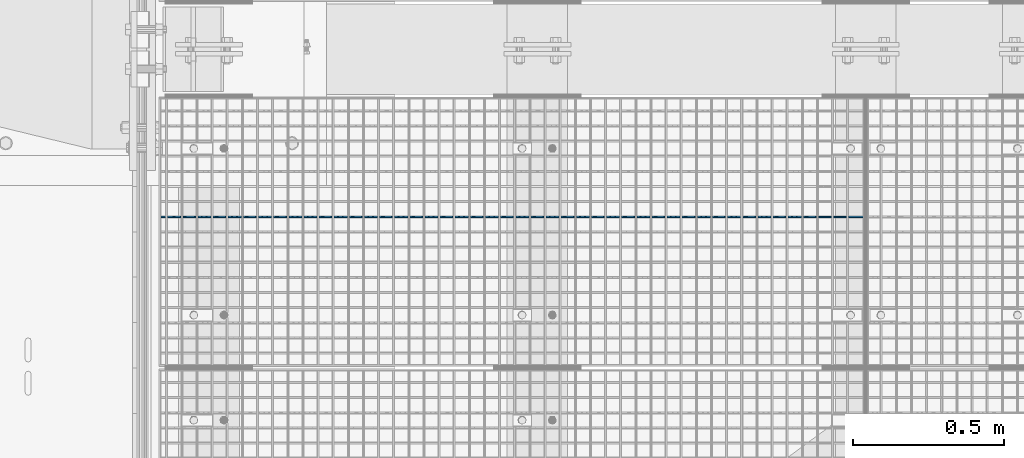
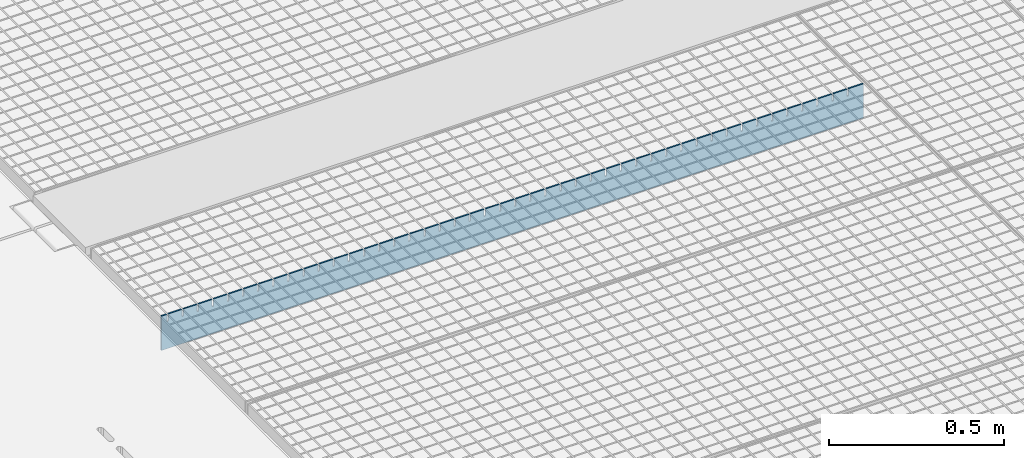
# One storey, part 145 of 1530: 1 beam.
"""IFC2X3 building model written with IfcOpenShell, lengths in millimetres."""

from ifc_helpers import new_model, si_unit, frame, origin_with_axes, place, context, subcontext, project, spatial, faceted_brep, material, type_object, element, save


model = new_model("IFC2X3")

# Units and contexts
model_context = context("Model", 3, precision=1e-05, world=origin_with_axes())
body_context = subcontext(model_context, "Body", "Model", "MODEL_VIEW")
ifc_project = project(units=[si_unit("LENGTHUNIT", "METRE", prefix="MILLI"), si_unit("AREAUNIT", "SQUARE_METRE"), si_unit("VOLUMEUNIT", "CUBIC_METRE"), si_unit("MASSUNIT", "GRAM", prefix="KILO"), si_unit("TIMEUNIT", "SECOND"), si_unit("PLANEANGLEUNIT", "RADIAN"), si_unit("SOLIDANGLEUNIT", "STERADIAN"), si_unit("THERMODYNAMICTEMPERATUREUNIT", "DEGREE_CELSIUS"), si_unit("LUMINOUSINTENSITYUNIT", "LUMEN")], contexts=[model_context])

# Site, building, storey
site_placement = place(None, origin_with_axes())
site = spatial("IfcSite", under=ifc_project, at=site_placement, Name="Brattvåg", CompositionType="ELEMENT")
building_placement = place(site_placement, origin_with_axes())
building = spatial("IfcBuilding", under=site, at=building_placement, Name="Undefined", CompositionType="ELEMENT")
storey_placement = place(building_placement, origin_with_axes())
storey = spatial("IfcBuildingStorey", under=building, at=storey_placement, Name="Undefined", CompositionType="ELEMENT", Elevation=0.0)

# Beam
ifc_material = material(Name="STEEL/S355J2")
beam_type = type_object("IfcBeamType", Name="120*5", PredefinedType="NOTDEFINED")
beam_placement = place(storey_placement, frame((2347.01317977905, 2446.99563598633, -59.9998626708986), z_axis=(0.0, 0.0, 1.0), x_axis=(-1.0, 1.99999855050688e-09, 0.0)))
element("IfcBeam", 1, at=beam_placement, inside=storey, type_object=beam_type, material=ifc_material, Name="GRATING", context=body_context, shape_type="Brep", body=[
    faceted_brep([(99.4490367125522, -2.50000000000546, 60.0000722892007), (99.4490367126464, -2.50000000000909, 35.0001373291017), (99.4490367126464, 2.50022888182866, 35.0001373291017), (99.4490367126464, 2.5, 60.0), (104.449036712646, -2.50000000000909, 35.0001373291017), (104.449036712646, 2.50022888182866, 35.0001373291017), (104.449036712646, -2.50000000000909, 60.0001373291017), (104.449036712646, 2.5, 60.0), (54.5084370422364, -2.50000000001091, 60.0001373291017), (54.5084370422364, 2.5, 60.0), (54.5084370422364, 2.49999999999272, 35.0001373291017), (54.5084370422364, -2.50000000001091, 35.0001373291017), (49.5084370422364, 2.49999999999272, 35.0001373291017), (49.5084370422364, -2.50000000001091, 35.0001373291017), (49.5084370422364, -2.5, 60.0), (49.5084370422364, 2.5, 60.0), (0.0, 2.5, 60.0), (0.0, -2.5, 60.0), (0.0, -2.5, -60.0), (0.0, 2.5, -60.0), (2319.99865722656, 2.5, -60.0), (2319.99865722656, -2.5, -60.0), (2319.99865722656, -2.5, 60.0), (2319.99865722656, 2.5, 60.0), (2302.24871932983, 2.5, 60.0), (2302.24871932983, -2.50000000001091, 60.0001373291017), (2302.24871932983, 2.49999999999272, 35.0001373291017), (2302.24871932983, -2.50000000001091, 35.0001373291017), (2297.24871932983, 2.49999999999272, 35.0001373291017), (2297.24871932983, -2.50000000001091, 35.0001373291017), (2297.24871932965, -2.50000000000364, 60.0000461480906), (2297.24871932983, 2.5, 60.0), (2252.29859649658, 2.5, 60.0), (2252.29859649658, -2.50000000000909, 60.0001373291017), (2252.29859649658, 2.50022888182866, 35.0001373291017), (2252.29859649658, -2.50000000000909, 35.0001373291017), (2247.29859649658, 2.50022888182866, 35.0001373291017), (2247.29859649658, -2.50000000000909, 35.0001373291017), (2247.29859649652, -2.50000000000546, 60.0000848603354), (2247.29859649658, 2.5, 60.0), (2202.34847366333, 2.5, 60.0), (2202.34847366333, -2.50000000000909, 60.0001373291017), (2202.34847366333, 2.50022888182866, 35.0001373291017), (2202.34847366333, -2.50000000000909, 35.0001373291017), (2197.34847366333, 2.50022888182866, 35.0001373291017), (2197.34847366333, -2.50000000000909, 35.0001373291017), (2197.34847366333, -2.5, 60.0), (2197.34847366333, 2.5, 60.0), (2152.39882766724, 2.5, 60.0), (2152.39882766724, -2.50000000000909, 60.0001373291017), (2152.39882766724, 2.50022888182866, 35.0001373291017), (2152.39882766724, -2.50000000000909, 35.0001373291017), (2147.39882766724, 2.50022888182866, 35.0001373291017), (2147.39882766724, -2.50000000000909, 35.0001373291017), (2147.39882766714, -2.50000000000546, 60.0000722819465), (2147.39882766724, 2.5, 60.0), (2102.44870483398, 2.5, 60.0), (2102.44870483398, -2.50000000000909, 60.0001373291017), (2102.44870483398, 2.50022888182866, 35.0001373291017), (2102.44870483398, -2.50000000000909, 35.0001373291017), (2097.44870483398, 2.50022888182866, 35.0001373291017), (2097.44870483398, -2.50000000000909, 35.0001373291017), (2097.44870483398, -2.5, 60.0), (2097.44870483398, 2.5, 60.0), (2052.49858200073, 2.5, 60.0), (2052.49858200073, -2.50000000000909, 60.0001373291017), (2052.49858200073, 2.50022888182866, 35.0001373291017), (2052.49858200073, -2.50000000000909, 35.0001373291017), (2047.49858200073, 2.50022888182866, 35.0001373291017), (2047.49858200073, -2.50000000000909, 35.0001373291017), (2047.49858200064, -2.50000000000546, 60.0000722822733), (2047.49858200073, 2.5, 60.0), (2002.54845916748, 2.5, 60.0), (2002.54845916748, -2.50000000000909, 60.0001373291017), (2002.54845916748, 2.50022888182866, 35.0001373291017), (2002.54845916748, -2.50000000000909, 35.0001373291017), (1997.54845916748, 2.50022888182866, 35.0001373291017), (1997.54845916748, -2.50000000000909, 35.0001373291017), (1997.54845916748, -2.5, 60.0), (1997.54845916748, 2.5, 60.0), (1952.59881317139, 2.5, 60.0), (1952.59881317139, -2.50000000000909, 60.0001373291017), (1952.59881317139, 2.50022888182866, 35.0001373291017), (1952.59881317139, -2.50000000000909, 35.0001373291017), (1947.59881317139, 2.50022888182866, 35.0001373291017), (1947.59881317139, -2.50000000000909, 35.0001373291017), (1947.59881317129, -2.50000000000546, 60.0000722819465), (1947.59881317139, 2.5, 60.0), (1902.64869033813, 2.5, 60.0), (1902.64869033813, -2.50000000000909, 60.0001373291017), (1902.64869033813, 2.50022888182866, 35.0001373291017), (1902.64869033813, -2.50000000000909, 35.0001373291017), (1897.64869033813, 2.50022888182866, 35.0001373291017), (1897.64869033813, -2.50000000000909, 35.0001373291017), (1897.64869033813, -2.5, 60.0), (1897.64869033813, 2.5, 60.0), (1852.69856750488, 2.5, 60.0), (1852.69856750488, -2.50000000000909, 60.0001373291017), (1852.69856750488, 2.50022888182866, 35.0001373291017), (1852.69856750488, -2.50000000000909, 35.0001373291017), (1847.69856750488, 2.50022888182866, 35.0001373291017), (1847.69856750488, -2.50000000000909, 35.0001373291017), (1847.69856750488, -2.5, 60.0), (1847.69856750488, 2.5, 60.0), (1802.74892150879, 2.5, 60.0), (1802.74892150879, -2.50000000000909, 60.0001373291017), (1802.74892150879, 2.50022888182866, 35.0001373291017), (1802.74892150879, -2.50000000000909, 35.0001373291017), (1797.74892150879, 2.50022888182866, 35.0001373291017), (1797.74892150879, -2.50000000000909, 35.0001373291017), (1797.74892150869, -2.50000000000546, 60.0000722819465), (1797.74892150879, 2.5, 60.0), (1752.79879867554, 2.5, 60.0), (1752.79879867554, -2.50000000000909, 60.0001373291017), (1752.79879867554, 2.50022888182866, 35.0001373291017), (1752.79879867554, -2.50000000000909, 35.0001373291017), (1747.79879867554, 2.50022888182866, 35.0001373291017), (1747.79879867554, -2.50000000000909, 35.0001373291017), (1747.79879867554, -2.5, 60.0), (1747.79879867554, 2.5, 60.0), (1702.84867584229, 2.5, 60.0), (1702.84867584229, -2.50000000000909, 60.0001373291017), (1702.84867584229, 2.50022888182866, 35.0001373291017), (1702.84867584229, -2.50000000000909, 35.0001373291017), (1697.84867584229, 2.50022888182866, 35.0001373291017), (1697.84867584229, -2.50000000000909, 35.0001373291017), (1697.84867584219, -2.50000000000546, 60.0000722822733), (1697.84867584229, 2.5, 60.0), (1652.89855300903, 2.5, 60.0), (1652.89855300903, -2.50000000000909, 60.0001373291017), (1652.89855300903, 2.50022888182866, 35.0001373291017), (1652.89855300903, -2.50000000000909, 35.0001373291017), (1647.89855300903, 2.50022888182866, 35.0001373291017), (1647.89855300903, -2.50000000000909, 35.0001373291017), (1647.89855300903, -2.5, 60.0), (1647.89855300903, 2.5, 60.0), (1602.94890701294, 2.5, 60.0), (1602.94890701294, -2.50000000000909, 60.0001373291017), (1602.94890701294, 2.50022888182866, 35.0001373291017), (1602.94890701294, -2.50000000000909, 35.0001373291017), (1597.94890701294, 2.50022888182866, 35.0001373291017), (1597.94890701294, -2.50000000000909, 35.0001373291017), (1597.94890701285, -2.50000000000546, 60.0000722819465), (1597.94890701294, 2.5, 60.0), (1552.99878417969, 2.5, 60.0), (1552.99878417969, -2.50000000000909, 60.0001373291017), (1552.99878417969, 2.50022888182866, 35.0001373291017), (1552.99878417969, -2.50000000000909, 35.0001373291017), (1547.99878417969, 2.50022888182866, 35.0001373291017), (1547.99878417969, -2.50000000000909, 35.0001373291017), (1547.99878417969, -2.5, 60.0), (1547.99878417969, 2.5, 60.0), (1503.04866134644, 2.5, 60.0), (1503.04866134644, -2.50000000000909, 60.0001373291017), (1503.04866134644, 2.50022888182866, 35.0001373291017), (1503.04866134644, -2.50000000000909, 35.0001373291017), (1498.04866134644, 2.50022888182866, 35.0001373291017), (1498.04866134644, -2.50000000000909, 35.0001373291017), (1498.04866134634, -2.50000000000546, 60.0000722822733), (1498.04866134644, 2.5, 60.0), (1453.09853851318, 2.5, 60.0), (1453.09853851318, -2.50000000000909, 60.0001373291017), (1453.09853851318, 2.50022888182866, 35.0001373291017), (1453.09853851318, -2.50000000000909, 35.0001373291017), (1448.09853851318, 2.50022888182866, 35.0001373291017), (1448.09853851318, -2.50000000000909, 35.0001373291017), (1448.09853851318, -2.5, 60.0), (1448.09853851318, 2.5, 60.0), (1403.14889251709, 2.5, 60.0), (1403.14889251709, -2.50000000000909, 60.0001373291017), (1403.14889251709, 2.50022888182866, 35.0001373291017), (1403.14889251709, -2.50000000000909, 35.0001373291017), (1398.14889251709, 2.50022888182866, 35.0001373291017), (1398.14889251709, -2.50000000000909, 35.0001373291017), (1398.148892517, -2.50000000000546, 60.0000722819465), (1398.14889251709, 2.5, 60.0), (1353.19876968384, 2.5, 60.0), (1353.19876968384, -2.50000000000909, 60.0001373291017), (1353.19876968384, 2.50022888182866, 35.0001373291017), (1353.19876968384, -2.50000000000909, 35.0001373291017), (1348.19876968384, 2.50022888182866, 35.0001373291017), (1348.19876968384, -2.50000000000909, 35.0001373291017), (1348.19876968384, -2.5, 60.0), (1348.19876968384, 2.5, 60.0), (1303.24864685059, 2.5, 60.0), (1303.24864685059, -2.50000000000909, 60.0001373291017), (1303.24864685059, 2.50022888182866, 35.0001373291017), (1303.24864685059, -2.50000000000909, 35.0001373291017), (1298.24864685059, 2.50022888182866, 35.0001373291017), (1298.24864685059, -2.50000000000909, 35.0001373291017), (1298.24864685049, -2.50000000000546, 60.0000722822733), (1298.24864685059, 2.5, 60.0), (1253.29852401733, 2.5, 60.0), (1253.29852401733, -2.50000000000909, 60.0001373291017), (1253.29852401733, 2.50022888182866, 35.0001373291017), (1253.29852401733, -2.50000000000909, 35.0001373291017), (1248.29852401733, 2.50022888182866, 35.0001373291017), (1248.29852401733, -2.50000000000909, 35.0001373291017), (1248.29852401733, -2.5, 60.0), (1248.29852401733, 2.5, 60.0), (1203.34887802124, 2.5, 60.0), (1203.34887802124, -2.50000000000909, 60.0001373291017), (1203.34887802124, 2.50022888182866, 35.0001373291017), (1203.34887802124, -2.50000000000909, 35.0001373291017), (1198.34887802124, 2.50022888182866, 35.0001373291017), (1198.34887802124, -2.50000000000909, 35.0001373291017), (1198.34887802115, -2.50000000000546, 60.0000722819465), (1198.34887802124, 2.5, 60.0), (1153.39875518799, 2.5, 60.0), (1153.39875518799, -2.50000000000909, 60.0001373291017), (1153.39875518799, 2.50022888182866, 35.0001373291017), (1153.39875518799, -2.50000000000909, 35.0001373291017), (1148.39875518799, 2.50022888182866, 35.0001373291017), (1148.39875518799, -2.50000000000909, 35.0001373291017), (1148.39875518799, -2.5, 60.0), (1148.39875518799, 2.5, 60.0), (1103.44863235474, 2.5, 60.0), (1103.44863235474, -2.50000000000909, 60.0001373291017), (1103.44863235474, 2.50022888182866, 35.0001373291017), (1103.44863235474, -2.50000000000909, 35.0001373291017), (1098.44863235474, 2.50022888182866, 35.0001373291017), (1098.44863235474, -2.50000000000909, 35.0001373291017), (1098.44863235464, -2.50000000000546, 60.0000722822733), (1098.44863235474, 2.5, 60.0), (1053.49850952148, 2.5, 60.0), (1053.49850952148, -2.50000000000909, 60.0001373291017), (1053.49850952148, 2.50022888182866, 35.0001373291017), (1053.49850952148, -2.50000000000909, 35.0001373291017), (1048.49850952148, 2.50022888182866, 35.0001373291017), (1048.49850952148, -2.50000000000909, 35.0001373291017), (1048.49850952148, -2.5, 60.0), (1048.49850952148, 2.5, 60.0), (1003.54886352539, 2.5, 60.0), (1003.54886352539, -2.50000000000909, 60.0001373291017), (1003.54886352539, 2.50022888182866, 35.0001373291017), (1003.54886352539, -2.50000000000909, 35.0001373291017), (998.548863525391, 2.50022888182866, 35.0001373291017), (998.548863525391, -2.50000000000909, 35.0001373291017), (998.548863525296, -2.50000000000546, 60.0000722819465), (998.548863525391, 2.5, 60.0), (953.598740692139, 2.5, 60.0), (953.598740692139, -2.50000000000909, 60.0001373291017), (953.598740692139, 2.50022888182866, 35.0001373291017), (953.598740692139, -2.50000000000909, 35.0001373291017), (948.598740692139, 2.50022888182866, 35.0001373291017), (948.598740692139, -2.50000000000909, 35.0001373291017), (948.598740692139, -2.5, 60.0), (948.598740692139, 2.5, 60.0), (903.648617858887, 2.5, 60.0), (903.648617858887, -2.50000000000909, 60.0001373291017), (903.648617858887, 2.50022888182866, 35.0001373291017), (903.648617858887, -2.50000000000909, 35.0001373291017), (898.648617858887, 2.50022888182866, 35.0001373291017), (898.648617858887, -2.50000000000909, 35.0001373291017), (898.648617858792, -2.50000000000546, 60.0000722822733), (898.648617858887, 2.5, 60.0), (853.698495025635, 2.5, 60.0), (853.698495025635, -2.50000000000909, 60.0001373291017), (853.698495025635, 2.50022888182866, 35.0001373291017), (853.698495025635, -2.50000000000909, 35.0001373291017), (848.698495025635, 2.50022888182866, 35.0001373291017), (848.698495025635, -2.50000000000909, 35.0001373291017), (848.698495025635, -2.5, 60.0), (848.698495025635, 2.5, 60.0), (803.748849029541, 2.5, 60.0), (803.748849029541, -2.50000000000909, 60.0001373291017), (803.748849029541, 2.50022888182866, 35.0001373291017), (803.748849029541, -2.50000000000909, 35.0001373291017), (798.748849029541, 2.50022888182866, 35.0001373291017), (798.748849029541, -2.50000000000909, 35.0001373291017), (798.748849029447, -2.50000000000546, 60.0000722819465), (798.748849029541, 2.5, 60.0), (753.798726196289, 2.5, 60.0), (753.798726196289, -2.50000000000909, 60.0001373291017), (753.798726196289, 2.50022888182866, 35.0001373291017), (753.798726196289, -2.50000000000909, 35.0001373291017), (748.798726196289, 2.50022888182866, 35.0001373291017), (748.798726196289, -2.50000000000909, 35.0001373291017), (748.798726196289, -2.5, 60.0), (748.798726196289, 2.5, 60.0), (703.848603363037, 2.5, 60.0), (703.848603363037, -2.50000000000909, 60.0001373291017), (703.848603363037, 2.50022888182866, 35.0001373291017), (703.848603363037, -2.50000000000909, 35.0001373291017), (698.848603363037, 2.50022888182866, 35.0001373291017), (698.848603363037, -2.50000000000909, 35.0001373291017), (698.848603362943, -2.50000000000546, 60.0000722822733), (698.848603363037, 2.5, 60.0), (653.898480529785, 2.5, 60.0), (653.898480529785, -2.50000000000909, 60.0001373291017), (653.898480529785, 2.50022888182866, 35.0001373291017), (653.898480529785, -2.50000000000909, 35.0001373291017), (648.898480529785, 2.50022888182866, 35.0001373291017), (648.898480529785, -2.50000000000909, 35.0001373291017), (648.898480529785, -2.5, 60.0), (648.898480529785, 2.5, 60.0), (603.948834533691, 2.5, 60.0), (603.948834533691, -2.50000000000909, 60.0001373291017), (603.948834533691, 2.50022888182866, 35.0001373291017), (603.948834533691, -2.50000000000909, 35.0001373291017), (598.948834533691, 2.50022888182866, 35.0001373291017), (598.948834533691, -2.50000000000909, 35.0001373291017), (598.948834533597, -2.50000000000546, 60.0000722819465), (598.948834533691, 2.5, 60.0), (553.998711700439, 2.5, 60.0), (553.998711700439, -2.50000000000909, 60.0001373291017), (553.998711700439, 2.50022888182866, 35.0001373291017), (553.998711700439, -2.50000000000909, 35.0001373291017), (548.998711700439, 2.50022888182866, 35.0001373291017), (548.998711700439, -2.50000000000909, 35.0001373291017), (548.998711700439, -2.5, 60.0), (548.998711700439, 2.5, 60.0), (504.048588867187, 2.5, 60.0), (504.048588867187, -2.50000000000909, 60.0001373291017), (504.048588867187, 2.50022888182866, 35.0001373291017), (504.048588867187, -2.50000000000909, 35.0001373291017), (499.048588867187, 2.50022888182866, 35.0001373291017), (499.048588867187, -2.50000000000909, 35.0001373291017), (499.048588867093, -2.50000000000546, 60.0000722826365), (499.048588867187, 2.5, 60.0), (454.098942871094, 2.5, 60.0), (454.098942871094, -2.50000000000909, 60.0001373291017), (454.098942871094, 2.50022888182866, 35.0001373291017), (454.098942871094, -2.50000000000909, 35.0001373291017), (449.098942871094, 2.50022888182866, 35.0001373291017), (449.098942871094, -2.50000000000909, 35.0001373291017), (449.098942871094, -2.5, 60.0), (449.098942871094, 2.5, 60.0), (404.148820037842, 2.5, 60.0), (404.148820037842, -2.50000000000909, 60.0001373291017), (404.148820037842, 2.50022888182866, 35.0001373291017), (404.148820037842, -2.50000000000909, 35.0001373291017), (399.148820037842, 2.50022888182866, 35.0001373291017), (399.148820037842, -2.50000000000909, 35.0001373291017), (399.148820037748, -2.50000000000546, 60.0000722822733), (399.148820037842, 2.5, 60.0), (354.19869720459, 2.5, 60.0), (354.19869720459, -2.50000000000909, 60.0001373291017), (354.19869720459, 2.50022888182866, 35.0001373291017), (354.19869720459, -2.50000000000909, 35.0001373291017), (349.19869720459, 2.50022888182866, 35.0001373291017), (349.19869720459, -2.50000000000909, 35.0001373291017), (349.19869720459, -2.5, 60.0), (349.19869720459, 2.5, 60.0), (304.248574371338, 2.5, 60.0), (304.248574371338, -2.50000000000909, 60.0001373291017), (304.248574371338, 2.50022888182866, 35.0001373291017), (304.248574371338, -2.50000000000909, 35.0001373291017), (299.248574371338, 2.50022888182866, 35.0001373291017), (299.248574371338, -2.50000000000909, 35.0001373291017), (299.248574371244, -2.50000000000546, 60.0000722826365), (299.248574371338, 2.5, 60.0), (254.298928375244, 2.5, 60.0), (254.298928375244, -2.50000000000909, 60.0001373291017), (254.298928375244, 2.50022888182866, 35.0001373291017), (254.298928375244, -2.50000000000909, 35.0001373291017), (249.298928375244, 2.50022888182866, 35.0001373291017), (249.298928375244, -2.50000000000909, 35.0001373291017), (249.298928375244, -2.5, 60.0), (249.298928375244, 2.5, 60.0), (204.348328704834, 2.5, 60.0), (204.348328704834, -2.50000000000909, 60.0001373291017), (204.348328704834, 2.50022888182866, 35.0001373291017), (204.348328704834, -2.50000000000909, 35.0001373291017), (199.348328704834, 2.50022888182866, 35.0001373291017), (199.348328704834, -2.50000000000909, 35.0001373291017), (199.34832870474, -2.50000000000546, 60.0000722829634), (199.348328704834, 2.5, 60.0), (154.39868270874, 2.5, 60.0), (154.39868270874, -2.50000000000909, 60.0001373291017), (154.39868270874, 2.50022888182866, 35.0001373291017), (154.39868270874, -2.50000000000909, 35.0001373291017), (149.39868270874, 2.50022888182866, 35.0001373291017), (149.39868270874, -2.50000000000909, 35.0001373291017), (149.39868270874, -2.5, 60.0), (149.39868270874, 2.5, 60.0)], [[[0, 1, 2, 3]], [[4, 5, 2, 1]], [[6, 7, 5, 4]], [[8, 9, 10, 11]], [[11, 10, 12, 13]], [[14, 13, 12, 15]], [[16, 17, 14, 15]], [[18, 17, 16, 19]], [[18, 19, 20, 21]], [[22, 21, 20, 23]], [[22, 23, 24, 25]], [[25, 24, 26, 27]], [[27, 26, 28, 29]], [[30, 29, 28, 31]], [[32, 33, 30, 31]], [[33, 32, 34, 35]], [[35, 34, 36, 37]], [[38, 37, 36, 39]], [[40, 41, 38, 39]], [[41, 40, 42, 43]], [[43, 42, 44, 45]], [[46, 45, 44, 47]], [[46, 47, 48, 49]], [[49, 48, 50, 51]], [[51, 50, 52, 53]], [[54, 53, 52, 55]], [[56, 57, 54, 55]], [[57, 56, 58, 59]], [[59, 58, 60, 61]], [[62, 61, 60, 63]], [[62, 63, 64, 65]], [[65, 64, 66, 67]], [[67, 66, 68, 69]], [[70, 69, 68, 71]], [[72, 73, 70, 71]], [[73, 72, 74, 75]], [[75, 74, 76, 77]], [[78, 77, 76, 79]], [[78, 79, 80, 81]], [[81, 80, 82, 83]], [[83, 82, 84, 85]], [[86, 85, 84, 87]], [[88, 89, 86, 87]], [[89, 88, 90, 91]], [[91, 90, 92, 93]], [[94, 93, 92, 95]], [[94, 95, 96, 97]], [[97, 96, 98, 99]], [[99, 98, 100, 101]], [[102, 101, 100, 103]], [[102, 103, 104, 105]], [[105, 104, 106, 107]], [[107, 106, 108, 109]], [[110, 109, 108, 111]], [[112, 113, 110, 111]], [[113, 112, 114, 115]], [[115, 114, 116, 117]], [[118, 117, 116, 119]], [[118, 119, 120, 121]], [[121, 120, 122, 123]], [[123, 122, 124, 125]], [[126, 125, 124, 127]], [[128, 129, 126, 127]], [[129, 128, 130, 131]], [[131, 130, 132, 133]], [[134, 133, 132, 135]], [[134, 135, 136, 137]], [[137, 136, 138, 139]], [[139, 138, 140, 141]], [[142, 141, 140, 143]], [[144, 145, 142, 143]], [[145, 144, 146, 147]], [[147, 146, 148, 149]], [[150, 149, 148, 151]], [[150, 151, 152, 153]], [[153, 152, 154, 155]], [[155, 154, 156, 157]], [[158, 157, 156, 159]], [[160, 161, 158, 159]], [[161, 160, 162, 163]], [[163, 162, 164, 165]], [[166, 165, 164, 167]], [[166, 167, 168, 169]], [[169, 168, 170, 171]], [[171, 170, 172, 173]], [[174, 173, 172, 175]], [[176, 177, 174, 175]], [[177, 176, 178, 179]], [[179, 178, 180, 181]], [[182, 181, 180, 183]], [[182, 183, 184, 185]], [[185, 184, 186, 187]], [[187, 186, 188, 189]], [[190, 189, 188, 191]], [[192, 193, 190, 191]], [[193, 192, 194, 195]], [[195, 194, 196, 197]], [[198, 197, 196, 199]], [[198, 199, 200, 201]], [[201, 200, 202, 203]], [[203, 202, 204, 205]], [[206, 205, 204, 207]], [[208, 209, 206, 207]], [[209, 208, 210, 211]], [[211, 210, 212, 213]], [[214, 213, 212, 215]], [[214, 215, 216, 217]], [[217, 216, 218, 219]], [[219, 218, 220, 221]], [[222, 221, 220, 223]], [[224, 225, 222, 223]], [[225, 224, 226, 227]], [[227, 226, 228, 229]], [[230, 229, 228, 231]], [[230, 231, 232, 233]], [[233, 232, 234, 235]], [[235, 234, 236, 237]], [[238, 237, 236, 239]], [[240, 241, 238, 239]], [[241, 240, 242, 243]], [[243, 242, 244, 245]], [[246, 245, 244, 247]], [[246, 247, 248, 249]], [[249, 248, 250, 251]], [[251, 250, 252, 253]], [[254, 253, 252, 255]], [[256, 257, 254, 255]], [[257, 256, 258, 259]], [[259, 258, 260, 261]], [[262, 261, 260, 263]], [[262, 263, 264, 265]], [[265, 264, 266, 267]], [[267, 266, 268, 269]], [[270, 269, 268, 271]], [[272, 273, 270, 271]], [[273, 272, 274, 275]], [[275, 274, 276, 277]], [[278, 277, 276, 279]], [[278, 279, 280, 281]], [[281, 280, 282, 283]], [[283, 282, 284, 285]], [[286, 285, 284, 287]], [[288, 289, 286, 287]], [[289, 288, 290, 291]], [[291, 290, 292, 293]], [[294, 293, 292, 295]], [[294, 295, 296, 297]], [[297, 296, 298, 299]], [[299, 298, 300, 301]], [[302, 301, 300, 303]], [[304, 305, 302, 303]], [[305, 304, 306, 307]], [[307, 306, 308, 309]], [[310, 309, 308, 311]], [[310, 311, 312, 313]], [[313, 312, 314, 315]], [[315, 314, 316, 317]], [[318, 317, 316, 319]], [[320, 321, 318, 319]], [[321, 320, 322, 323]], [[323, 322, 324, 325]], [[326, 325, 324, 327]], [[326, 327, 328, 329]], [[329, 328, 330, 331]], [[331, 330, 332, 333]], [[334, 333, 332, 335]], [[336, 337, 334, 335]], [[337, 336, 338, 339]], [[339, 338, 340, 341]], [[342, 341, 340, 343]], [[342, 343, 344, 345]], [[345, 344, 346, 347]], [[347, 346, 348, 349]], [[350, 349, 348, 351]], [[352, 353, 350, 351]], [[353, 352, 354, 355]], [[355, 354, 356, 357]], [[358, 357, 356, 359]], [[358, 359, 360, 361]], [[361, 360, 362, 363]], [[363, 362, 364, 365]], [[366, 365, 364, 367]], [[368, 369, 366, 367]], [[369, 368, 370, 371]], [[371, 370, 372, 373]], [[374, 373, 372, 375]], [[1, 0, 8, 11, 13, 14, 17, 18, 21, 22, 25, 27, 29, 30, 33, 35, 37, 38, 41, 43, 45, 46, 49, 51, 53, 54, 57, 59, 61, 62, 65, 67, 69, 70, 73, 75, 77, 78, 81, 83, 85, 86, 89, 91, 93, 94, 97, 99, 101, 102, 105, 107, 109, 110, 113, 115, 117, 118, 121, 123, 125, 126, 129, 131, 133, 134, 137, 139, 141, 142, 145, 147, 149, 150, 153, 155, 157, 158, 161, 163, 165, 166, 169, 171, 173, 174, 177, 179, 181, 182, 185, 187, 189, 190, 193, 195, 197, 198, 201, 203, 205, 206, 209, 211, 213, 214, 217, 219, 221, 222, 225, 227, 229, 230, 233, 235, 237, 238, 241, 243, 245, 246, 249, 251, 253, 254, 257, 259, 261, 262, 265, 267, 269, 270, 273, 275, 277, 278, 281, 283, 285, 286, 289, 291, 293, 294, 297, 299, 301, 302, 305, 307, 309, 310, 313, 315, 317, 318, 321, 323, 325, 326, 329, 331, 333, 334, 337, 339, 341, 342, 345, 347, 349, 350, 353, 355, 357, 358, 361, 363, 365, 366, 369, 371, 373, 374, 6, 4]], [[9, 8, 0, 3]], [[375, 372, 370, 368, 367, 364, 362, 360, 359, 356, 354, 352, 351, 348, 346, 344, 343, 340, 338, 336, 335, 332, 330, 328, 327, 324, 322, 320, 319, 316, 314, 312, 311, 308, 306, 304, 303, 300, 298, 296, 295, 292, 290, 288, 287, 284, 282, 280, 279, 276, 274, 272, 271, 268, 266, 264, 263, 260, 258, 256, 255, 252, 250, 248, 247, 244, 242, 240, 239, 236, 234, 232, 231, 228, 226, 224, 223, 220, 218, 216, 215, 212, 210, 208, 207, 204, 202, 200, 199, 196, 194, 192, 191, 188, 186, 184, 183, 180, 178, 176, 175, 172, 170, 168, 167, 164, 162, 160, 159, 156, 154, 152, 151, 148, 146, 144, 143, 140, 138, 136, 135, 132, 130, 128, 127, 124, 122, 120, 119, 116, 114, 112, 111, 108, 106, 104, 103, 100, 98, 96, 95, 92, 90, 88, 87, 84, 82, 80, 79, 76, 74, 72, 71, 68, 66, 64, 63, 60, 58, 56, 55, 52, 50, 48, 47, 44, 42, 40, 39, 36, 34, 32, 31, 28, 26, 24, 23, 20, 19, 16, 15, 12, 10, 9, 3, 2, 5, 7]], [[374, 375, 7, 6]]]),
])

save(model, "model.ifc")
